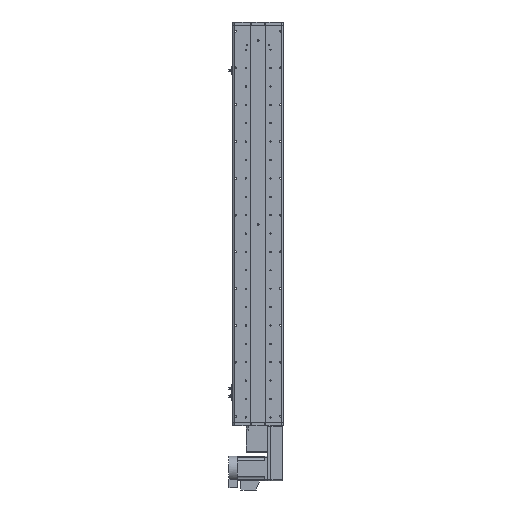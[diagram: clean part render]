
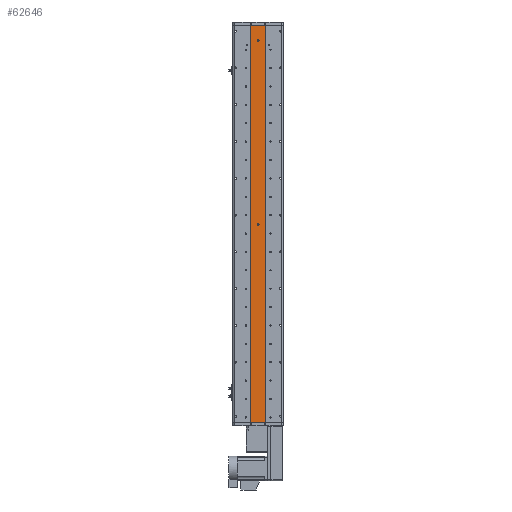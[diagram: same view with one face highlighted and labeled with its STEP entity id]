
A CAD part, front view. The second image highlights one B-rep face of the part: STEP entity #62646.
In plain terms, the highlighted planar face has unit normal (0, -1, 0).
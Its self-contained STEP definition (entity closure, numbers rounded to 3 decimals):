
#782 = VECTOR ( 'NONE', #62671, 1000. ) ;
#2523 = EDGE_CURVE ( 'NONE', #20122, #21480, #44333, .T. ) ;
#3622 = DIRECTION ( 'NONE',  ( 0., -1., 0. ) ) ;
#4582 = CARTESIAN_POINT ( 'NONE',  ( 25., 1., 648.5 ) ) ;
#5743 = CARTESIAN_POINT ( 'NONE',  ( 0., 1., 598.5 ) ) ;
#6830 = CIRCLE ( 'NONE', #55797, 3. ) ;
#7004 = VECTOR ( 'NONE', #22952, 1000. ) ;
#7071 = CARTESIAN_POINT ( 'NONE',  ( 25., 1., -648.5 ) ) ;
#7553 = FACE_BOUND ( 'NONE', #7673, .T. ) ;
#7673 = EDGE_LOOP ( 'NONE', ( #61372, #61765 ) ) ;
#8467 = DIRECTION ( 'NONE',  ( 0., 1., 0. ) ) ;
#9044 = EDGE_LOOP ( 'NONE', ( #51366, #58583, #52024, #48686 ) ) ;
#10813 = DIRECTION ( 'NONE',  ( 0., 0., -1. ) ) ;
#10926 = EDGE_CURVE ( 'NONE', #44302, #21480, #52848, .T. ) ;
#11821 = CARTESIAN_POINT ( 'NONE',  ( 0., 1., 598.5 ) ) ;
#13205 = CIRCLE ( 'NONE', #57381, 3. ) ;
#13349 = PLANE ( 'NONE',  #24148 ) ;
#14286 = VECTOR ( 'NONE', #15149, 1000. ) ;
#14909 = EDGE_CURVE ( 'NONE', #22941, #44302, #33999, .T. ) ;
#14950 = CARTESIAN_POINT ( 'NONE',  ( -25., 1., -648.5 ) ) ;
#15147 = CARTESIAN_POINT ( 'NONE',  ( 0., 1., -1.5 ) ) ;
#15149 = DIRECTION ( 'NONE',  ( 0., 0., -1. ) ) ;
#15894 = LINE ( 'NONE', #60550, #14286 ) ;
#16957 = DIRECTION ( 'NONE',  ( 0., 0., -1. ) ) ;
#19145 = CARTESIAN_POINT ( 'NONE',  ( 0., 1., 595.5 ) ) ;
#19496 = VERTEX_POINT ( 'NONE', #45338 ) ;
#20122 = VERTEX_POINT ( 'NONE', #14950 ) ;
#20244 = DIRECTION ( 'NONE',  ( 0., 0., -1. ) ) ;
#21480 = VERTEX_POINT ( 'NONE', #32273 ) ;
#22941 = VERTEX_POINT ( 'NONE', #34176 ) ;
#22952 = DIRECTION ( 'NONE',  ( 1., 0., 0. ) ) ;
#24148 = AXIS2_PLACEMENT_3D ( 'NONE', #28644, #8467, #43843 ) ;
#26524 = CIRCLE ( 'NONE', #36043, 3. ) ;
#26748 = VERTEX_POINT ( 'NONE', #33930 ) ;
#27045 = VERTEX_POINT ( 'NONE', #31873 ) ;
#28040 = CARTESIAN_POINT ( 'NONE',  ( 25., 1., 648.5 ) ) ;
#28644 = CARTESIAN_POINT ( 'NONE',  ( 25., 1., 648.5 ) ) ;
#29090 = DIRECTION ( 'NONE',  ( 0., 0., -1. ) ) ;
#31290 = EDGE_CURVE ( 'NONE', #22941, #20122, #15894, .T. ) ;
#31294 = VERTEX_POINT ( 'NONE', #19145 ) ;
#31873 = CARTESIAN_POINT ( 'NONE',  ( 0., 1., 1.5 ) ) ;
#32273 = CARTESIAN_POINT ( 'NONE',  ( 25., 1., -648.5 ) ) ;
#33930 = CARTESIAN_POINT ( 'NONE',  ( 0., 1., -4.5 ) ) ;
#33999 = LINE ( 'NONE', #28040, #7004 ) ;
#34000 = CARTESIAN_POINT ( 'NONE',  ( 0., 1., -1.5 ) ) ;
#34109 = ORIENTED_EDGE ( 'NONE', *, *, #49611, .F. ) ;
#34176 = CARTESIAN_POINT ( 'NONE',  ( -25., 1., 648.5 ) ) ;
#34395 = EDGE_LOOP ( 'NONE', ( #34109, #54995 ) ) ;
#36043 = AXIS2_PLACEMENT_3D ( 'NONE', #15147, #50604, #20244 ) ;
#39024 = CARTESIAN_POINT ( 'NONE',  ( 25., 1., 648.5 ) ) ;
#39039 = DIRECTION ( 'NONE',  ( 0., 0., -1. ) ) ;
#41162 = DIRECTION ( 'NONE',  ( 0., -1., 0. ) ) ;
#41308 = EDGE_CURVE ( 'NONE', #26748, #27045, #13205, .T. ) ;
#43843 = DIRECTION ( 'NONE',  ( 0., 0., 1. ) ) ;
#44302 = VERTEX_POINT ( 'NONE', #4582 ) ;
#44333 = LINE ( 'NONE', #7071, #782 ) ;
#45338 = CARTESIAN_POINT ( 'NONE',  ( 0., 1., 601.5 ) ) ;
#46395 = FACE_OUTER_BOUND ( 'NONE', #9044, .T. ) ;
#47282 = AXIS2_PLACEMENT_3D ( 'NONE', #5743, #41162, #10813 ) ;
#47293 = DIRECTION ( 'NONE',  ( 0., -1., 0. ) ) ;
#48686 = ORIENTED_EDGE ( 'NONE', *, *, #31290, .T. ) ;
#49611 = EDGE_CURVE ( 'NONE', #31294, #19496, #50691, .T. ) ;
#49666 = VECTOR ( 'NONE', #29090, 1000. ) ;
#50604 = DIRECTION ( 'NONE',  ( 0., -1., 0. ) ) ;
#50691 = CIRCLE ( 'NONE', #47282, 3. ) ;
#51366 = ORIENTED_EDGE ( 'NONE', *, *, #2523, .T. ) ;
#51808 = EDGE_CURVE ( 'NONE', #19496, #31294, #6830, .T. ) ;
#52024 = ORIENTED_EDGE ( 'NONE', *, *, #14909, .F. ) ;
#52848 = LINE ( 'NONE', #39024, #49666 ) ;
#54046 = EDGE_CURVE ( 'NONE', #27045, #26748, #26524, .T. ) ;
#54995 = ORIENTED_EDGE ( 'NONE', *, *, #51808, .F. ) ;
#55797 = AXIS2_PLACEMENT_3D ( 'NONE', #11821, #47293, #16957 ) ;
#57381 = AXIS2_PLACEMENT_3D ( 'NONE', #34000, #3622, #39039 ) ;
#58277 = FACE_BOUND ( 'NONE', #34395, .T. ) ;
#58583 = ORIENTED_EDGE ( 'NONE', *, *, #10926, .F. ) ;
#60550 = CARTESIAN_POINT ( 'NONE',  ( -25., 1., 648.5 ) ) ;
#61372 = ORIENTED_EDGE ( 'NONE', *, *, #41308, .F. ) ;
#61765 = ORIENTED_EDGE ( 'NONE', *, *, #54046, .F. ) ;
#62646 = ADVANCED_FACE ( 'NONE', ( #7553, #58277, #46395 ), #13349, .F. ) ;
#62671 = DIRECTION ( 'NONE',  ( 1., 0., 0. ) ) ;
